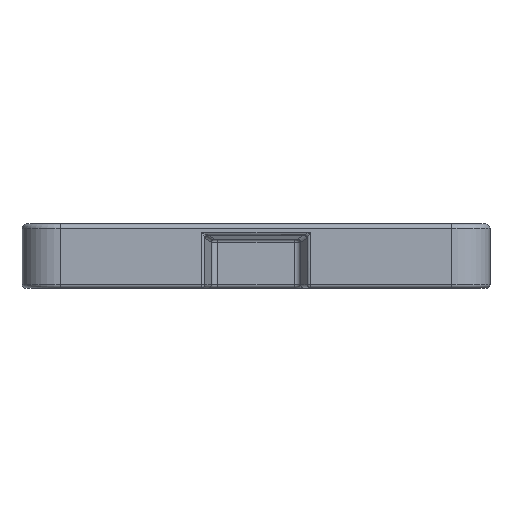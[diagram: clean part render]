
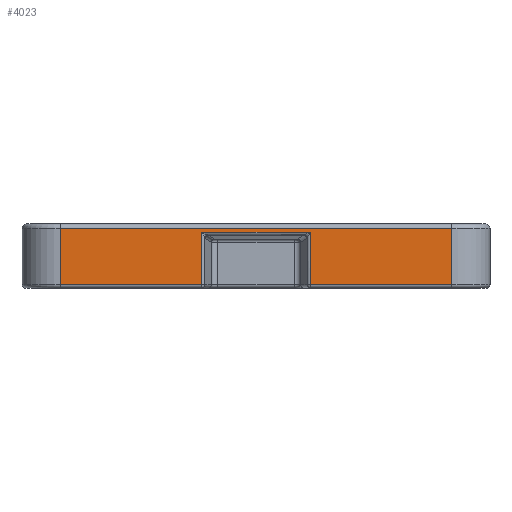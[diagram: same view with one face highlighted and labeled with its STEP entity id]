
A CAD part, left-side view. The second image highlights one B-rep face of the part: STEP entity #4023.
In plain terms, the highlighted planar face has unit normal (-1, 0, 0).
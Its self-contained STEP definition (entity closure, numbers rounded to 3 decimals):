
#293 = VECTOR ( 'NONE', #10333, 1000. ) ;
#371 = CARTESIAN_POINT ( 'NONE',  ( 0., 16.911, 17.45 ) ) ;
#809 = VECTOR ( 'NONE', #10860, 1000. ) ;
#1177 = ORIENTED_EDGE ( 'NONE', *, *, #3347, .T. ) ;
#1193 = CARTESIAN_POINT ( 'NONE',  ( 0., 16.911, 1. ) ) ;
#1300 = ORIENTED_EDGE ( 'NONE', *, *, #3349, .T. ) ;
#1383 = LINE ( 'NONE', #3699, #3714 ) ;
#1483 = ORIENTED_EDGE ( 'NONE', *, *, #3312, .T. ) ;
#1593 = EDGE_LOOP ( 'NONE', ( #1300, #1177, #1483, #2382, #2337, #2070, #1851, #2229 ) ) ;
#1851 = ORIENTED_EDGE ( 'NONE', *, *, #3238, .T. ) ;
#2070 = ORIENTED_EDGE ( 'NONE', *, *, #3252, .T. ) ;
#2213 = VERTEX_POINT ( 'NONE', #4880 ) ;
#2229 = ORIENTED_EDGE ( 'NONE', *, *, #3219, .T. ) ;
#2337 = ORIENTED_EDGE ( 'NONE', *, *, #3255, .T. ) ;
#2359 = VERTEX_POINT ( 'NONE', #11150 ) ;
#2382 = ORIENTED_EDGE ( 'NONE', *, *, #3286, .T. ) ;
#2782 = LINE ( 'NONE', #10956, #293 ) ;
#2879 = CARTESIAN_POINT ( 'NONE',  ( 0., -61., 1. ) ) ;
#2926 = VECTOR ( 'NONE', #9531, 1000. ) ;
#3219 = EDGE_CURVE ( 'NONE', #6617, #8316, #1383, .T. ) ;
#3238 = EDGE_CURVE ( 'NONE', #5857, #6617, #8024, .T. ) ;
#3252 = EDGE_CURVE ( 'NONE', #11280, #5857, #2782, .T. ) ;
#3255 = EDGE_CURVE ( 'NONE', #10029, #11280, #9485, .T. ) ;
#3286 = EDGE_CURVE ( 'NONE', #2213, #10029, #6723, .T. ) ;
#3312 = EDGE_CURVE ( 'NONE', #9480, #2213, #6253, .T. ) ;
#3347 = EDGE_CURVE ( 'NONE', #2359, #9480, #9880, .T. ) ;
#3349 = EDGE_CURVE ( 'NONE', #8316, #2359, #7613, .T. ) ;
#3699 = CARTESIAN_POINT ( 'NONE',  ( 0., -16.144, 17.45 ) ) ;
#3714 = VECTOR ( 'NONE', #11205, 1000. ) ;
#3842 = VECTOR ( 'NONE', #10080, 1000. ) ;
#4023 = ADVANCED_FACE ( 'NONE', ( #11229 ), #8784, .F. ) ;
#4759 = VECTOR ( 'NONE', #10275, 1000. ) ;
#4880 = CARTESIAN_POINT ( 'NONE',  ( 0., -61., 18.5 ) ) ;
#5597 = VECTOR ( 'NONE', #11030, 1000. ) ;
#5857 = VERTEX_POINT ( 'NONE', #1193 ) ;
#5905 = AXIS2_PLACEMENT_3D ( 'NONE', #8512, #8573, #8549 ) ;
#6189 = CARTESIAN_POINT ( 'NONE',  ( 0., 61., 18.5 ) ) ;
#6253 = LINE ( 'NONE', #10070, #3842 ) ;
#6617 = VERTEX_POINT ( 'NONE', #371 ) ;
#6723 = LINE ( 'NONE', #10246, #4759 ) ;
#7323 = CARTESIAN_POINT ( 'NONE',  ( 0., -16.911, 17.45 ) ) ;
#7613 = LINE ( 'NONE', #9546, #2926 ) ;
#8024 = LINE ( 'NONE', #11010, #5597 ) ;
#8316 = VERTEX_POINT ( 'NONE', #7323 ) ;
#8512 = CARTESIAN_POINT ( 'NONE',  ( 0., 73., 20. ) ) ;
#8549 = DIRECTION ( 'NONE',  ( 0., 1., 0. ) ) ;
#8573 = DIRECTION ( 'NONE',  ( 1., 0., 0. ) ) ;
#8677 = CARTESIAN_POINT ( 'NONE',  ( 0., 61., 1. ) ) ;
#8784 = PLANE ( 'NONE',  #5905 ) ;
#9480 = VERTEX_POINT ( 'NONE', #2879 ) ;
#9485 = LINE ( 'NONE', #10862, #809 ) ;
#9531 = DIRECTION ( 'NONE',  ( 0., 0., -1. ) ) ;
#9546 = CARTESIAN_POINT ( 'NONE',  ( 0., -16.911, 0. ) ) ;
#9576 = CARTESIAN_POINT ( 'NONE',  ( 0., 73., 1. ) ) ;
#9704 = DIRECTION ( 'NONE',  ( 0., -1., 0. ) ) ;
#9880 = LINE ( 'NONE', #9576, #10416 ) ;
#10029 = VERTEX_POINT ( 'NONE', #6189 ) ;
#10070 = CARTESIAN_POINT ( 'NONE',  ( 0., -61., 20. ) ) ;
#10080 = DIRECTION ( 'NONE',  ( 0., 0., 1. ) ) ;
#10246 = CARTESIAN_POINT ( 'NONE',  ( 0., 61., 18.5 ) ) ;
#10275 = DIRECTION ( 'NONE',  ( 0., 1., 0. ) ) ;
#10333 = DIRECTION ( 'NONE',  ( 0., -1., 0. ) ) ;
#10416 = VECTOR ( 'NONE', #9704, 1000. ) ;
#10860 = DIRECTION ( 'NONE',  ( 0., 0., -1. ) ) ;
#10862 = CARTESIAN_POINT ( 'NONE',  ( 0., 61., 20. ) ) ;
#10956 = CARTESIAN_POINT ( 'NONE',  ( 0., 73., 1. ) ) ;
#11010 = CARTESIAN_POINT ( 'NONE',  ( 0., 16.911, 16.611 ) ) ;
#11030 = DIRECTION ( 'NONE',  ( 0., 0., 1. ) ) ;
#11150 = CARTESIAN_POINT ( 'NONE',  ( 0., -16.911, 1. ) ) ;
#11205 = DIRECTION ( 'NONE',  ( 0., -1., 0. ) ) ;
#11229 = FACE_OUTER_BOUND ( 'NONE', #1593, .T. ) ;
#11280 = VERTEX_POINT ( 'NONE', #8677 ) ;
